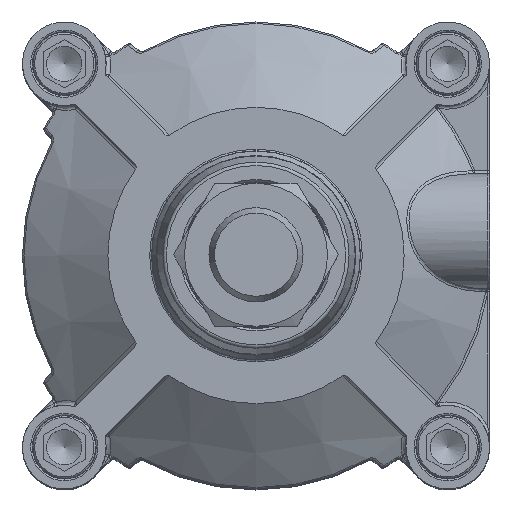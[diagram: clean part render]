
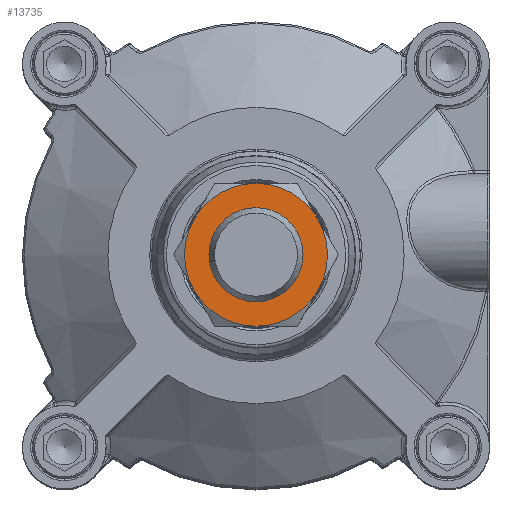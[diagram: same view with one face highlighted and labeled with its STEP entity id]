
A CAD part, top view. The second image highlights one B-rep face of the part: STEP entity #13735.
In plain terms, the highlighted planar face has unit normal (0, 0, 1) as drawn and (1, 0, 0) by its records, which use the part's own axes.
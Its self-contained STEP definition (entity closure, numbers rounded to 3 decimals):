
#1868=CIRCLE('',#19872,20.5);
#1869=CIRCLE('',#19874,20.5);
#1870=CIRCLE('',#19876,20.5);
#1871=CIRCLE('',#19878,20.5);
#1872=CIRCLE('',#19880,20.5);
#1873=CIRCLE('',#19882,20.5);
#1880=CIRCLE('',#19896,13.038);
#5866=ORIENTED_EDGE('',*,*,#7938,.T.);
#5867=ORIENTED_EDGE('',*,*,#7930,.T.);
#5868=ORIENTED_EDGE('',*,*,#7927,.T.);
#5869=ORIENTED_EDGE('',*,*,#7926,.T.);
#5870=ORIENTED_EDGE('',*,*,#7928,.T.);
#5871=ORIENTED_EDGE('',*,*,#7929,.T.);
#5872=ORIENTED_EDGE('',*,*,#7931,.T.);
#7926=EDGE_CURVE('',#9239,#9249,#1868,.T.);
#7927=EDGE_CURVE('',#9235,#9239,#1869,.T.);
#7928=EDGE_CURVE('',#9249,#9246,#1870,.T.);
#7929=EDGE_CURVE('',#9246,#9242,#1871,.T.);
#7930=EDGE_CURVE('',#9229,#9235,#1872,.T.);
#7931=EDGE_CURVE('',#9242,#9229,#1873,.T.);
#7938=EDGE_CURVE('',#9250,#9250,#1880,.T.);
#9229=VERTEX_POINT('',#31644);
#9235=VERTEX_POINT('',#31665);
#9239=VERTEX_POINT('',#31683);
#9242=VERTEX_POINT('',#31702);
#9246=VERTEX_POINT('',#31720);
#9249=VERTEX_POINT('',#31737);
#9250=VERTEX_POINT('',#31767);
#11675=EDGE_LOOP('',(#5866));
#11676=EDGE_LOOP('',(#5867,#5868,#5869,#5870,#5871,#5872));
#12614=FACE_BOUND('',#11675,.T.);
#12615=FACE_BOUND('',#11676,.T.);
#12916=PLANE('',#19895);
#13735=ADVANCED_FACE('',(#12614,#12615),#12916,.T.);
#19872=AXIS2_PLACEMENT_3D('',#31742,#23624,#23625);
#19874=AXIS2_PLACEMENT_3D('',#31744,#23628,#23629);
#19876=AXIS2_PLACEMENT_3D('',#31746,#23632,#23633);
#19878=AXIS2_PLACEMENT_3D('',#31748,#23636,#23637);
#19880=AXIS2_PLACEMENT_3D('',#31750,#23640,#23641);
#19882=AXIS2_PLACEMENT_3D('',#31752,#23644,#23645);
#19895=AXIS2_PLACEMENT_3D('',#31765,#23670,#23671);
#19896=AXIS2_PLACEMENT_3D('',#31766,#23672,#23673);
#23624=DIRECTION('',(1.,0.,0.));
#23625=DIRECTION('',(0.,1.,0.));
#23628=DIRECTION('',(1.,0.,0.));
#23629=DIRECTION('',(0.,1.,0.));
#23632=DIRECTION('',(1.,0.,0.));
#23633=DIRECTION('',(0.,1.,0.));
#23636=DIRECTION('',(1.,0.,0.));
#23637=DIRECTION('',(0.,1.,0.));
#23640=DIRECTION('',(1.,0.,0.));
#23641=DIRECTION('',(0.,1.,0.));
#23644=DIRECTION('',(1.,0.,0.));
#23645=DIRECTION('',(0.,1.,0.));
#23670=DIRECTION('',(1.,0.,0.));
#23671=DIRECTION('',(0.,0.,-1.));
#23672=DIRECTION('',(-1.,0.,0.));
#23673=DIRECTION('',(0.,0.,-1.));
#31644=CARTESIAN_POINT('',(12.,-17.754,-10.25));
#31665=CARTESIAN_POINT('',(12.,0.,-20.5));
#31683=CARTESIAN_POINT('',(12.,17.754,-10.25));
#31702=CARTESIAN_POINT('',(12.,-17.754,10.25));
#31720=CARTESIAN_POINT('',(12.,0.,20.5));
#31737=CARTESIAN_POINT('',(12.,17.754,10.25));
#31742=CARTESIAN_POINT('',(12.,0.,0.));
#31744=CARTESIAN_POINT('',(12.,0.,0.));
#31746=CARTESIAN_POINT('',(12.,0.,0.));
#31748=CARTESIAN_POINT('',(12.,0.,0.));
#31750=CARTESIAN_POINT('',(12.,0.,0.));
#31752=CARTESIAN_POINT('',(12.,0.,0.));
#31765=CARTESIAN_POINT('',(12.,0.,0.));
#31766=CARTESIAN_POINT('',(12.,0.,0.));
#31767=CARTESIAN_POINT('',(12.,0.,-13.038));
